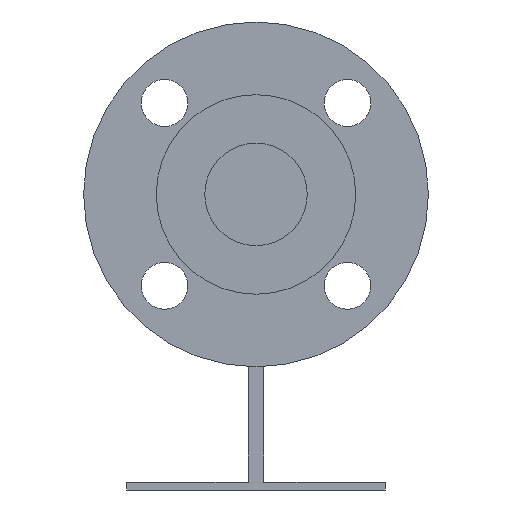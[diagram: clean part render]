
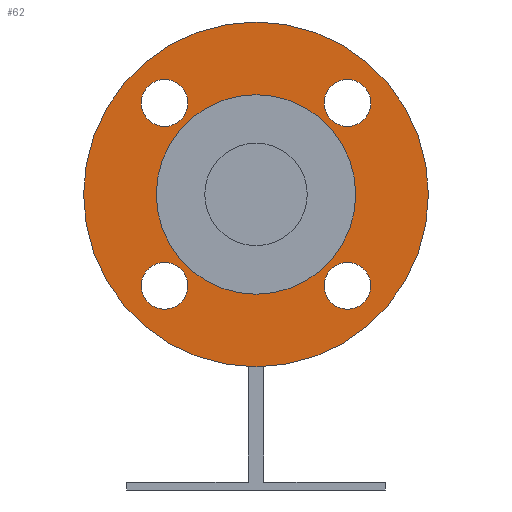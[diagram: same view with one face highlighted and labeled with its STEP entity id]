
A CAD part, left-side view. The second image highlights one B-rep face of the part: STEP entity #62.
In plain terms, the highlighted planar face has unit normal (-1, 0, 0).
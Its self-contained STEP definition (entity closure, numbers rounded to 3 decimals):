
#62=ADVANCED_FACE('',(#365,#366,#367,#368,#369,#370),#364,.T.);
#364=PLANE('',#1062);
#365=FACE_OUTER_BOUND('',#1063,.T.);
#366=FACE_BOUND('',#1064,.T.);
#367=FACE_BOUND('',#1065,.T.);
#368=FACE_BOUND('',#1066,.T.);
#369=FACE_BOUND('',#1067,.T.);
#370=FACE_BOUND('',#1068,.T.);
#1059=CARTESIAN_POINT('',(-337.,-131.244,-150.));
#1060=DIRECTION('',(-1.,0.,0.));
#1061=DIRECTION('',(0.,0.,1.));
#1062=AXIS2_PLACEMENT_3D('',#1059,#1060,#1061);
#1063=EDGE_LOOP('',(#1476,#1477));
#1064=EDGE_LOOP('',(#1478,#1479));
#1065=EDGE_LOOP('',(#1480,#1481));
#1066=EDGE_LOOP('',(#1482,#1483));
#1067=EDGE_LOOP('',(#1484,#1485));
#1068=EDGE_LOOP('',(#1486,#1487));
#1476=ORIENTED_EDGE('',*,*,#1843,.T.);
#1477=ORIENTED_EDGE('',*,*,#1844,.T.);
#1478=ORIENTED_EDGE('',*,*,#1845,.T.);
#1479=ORIENTED_EDGE('',*,*,#1846,.T.);
#1480=ORIENTED_EDGE('',*,*,#1847,.T.);
#1481=ORIENTED_EDGE('',*,*,#1848,.T.);
#1482=ORIENTED_EDGE('',*,*,#1849,.T.);
#1483=ORIENTED_EDGE('',*,*,#1850,.T.);
#1484=ORIENTED_EDGE('',*,*,#1851,.T.);
#1485=ORIENTED_EDGE('',*,*,#1852,.T.);
#1486=ORIENTED_EDGE('',*,*,#1853,.F.);
#1487=ORIENTED_EDGE('',*,*,#1854,.F.);
#1843=EDGE_CURVE('',#2706,#2707,#2708,.T.);
#1844=EDGE_CURVE('',#2707,#2706,#2714,.T.);
#1845=EDGE_CURVE('',#2720,#2721,#2722,.T.);
#1846=EDGE_CURVE('',#2721,#2720,#2728,.T.);
#1847=EDGE_CURVE('',#2734,#2735,#2736,.T.);
#1848=EDGE_CURVE('',#2735,#2734,#2742,.T.);
#1849=EDGE_CURVE('',#2748,#2749,#2750,.T.);
#1850=EDGE_CURVE('',#2749,#2748,#2756,.T.);
#1851=EDGE_CURVE('',#2762,#2763,#2764,.T.);
#1852=EDGE_CURVE('',#2763,#2762,#2770,.T.);
#1853=EDGE_CURVE('',#2776,#2777,#2778,.T.);
#1854=EDGE_CURVE('',#2777,#2776,#2784,.T.);
#2706=VERTEX_POINT('',#3739);
#2707=VERTEX_POINT('',#3740);
#2708=CIRCLE('',#3744,70.);
#2714=CIRCLE('',#3748,70.);
#2720=VERTEX_POINT('',#3749);
#2721=VERTEX_POINT('',#3750);
#2722=CIRCLE('',#3754,9.5);
#2728=CIRCLE('',#3758,9.5);
#2734=VERTEX_POINT('',#3759);
#2735=VERTEX_POINT('',#3760);
#2736=CIRCLE('',#3764,9.5);
#2742=CIRCLE('',#3768,9.5);
#2748=VERTEX_POINT('',#3769);
#2749=VERTEX_POINT('',#3770);
#2750=CIRCLE('',#3774,9.5);
#2756=CIRCLE('',#3778,9.5);
#2762=VERTEX_POINT('',#3779);
#2763=VERTEX_POINT('',#3780);
#2764=CIRCLE('',#3784,9.5);
#2770=CIRCLE('',#3788,9.5);
#2776=VERTEX_POINT('',#3789);
#2777=VERTEX_POINT('',#3790);
#2778=CIRCLE('',#3794,40.5);
#2784=CIRCLE('',#3798,40.5);
#3739=CARTESIAN_POINT('',(-337.,0.,70.));
#3740=CARTESIAN_POINT('',(-337.,0.,-70.));
#3741=CARTESIAN_POINT('',(-337.,0.,0.));
#3742=DIRECTION('',(-1.,0.,0.));
#3743=DIRECTION('',(0.,0.,1.));
#3744=AXIS2_PLACEMENT_3D('',#3741,#3742,#3743);
#3745=CARTESIAN_POINT('',(-337.,0.,0.));
#3746=DIRECTION('',(-1.,0.,0.));
#3747=DIRECTION('',(0.,0.,1.));
#3748=AXIS2_PLACEMENT_3D('',#3745,#3746,#3747);
#3749=CARTESIAN_POINT('',(-337.,-37.123,-27.623));
#3750=CARTESIAN_POINT('',(-337.,-37.123,-46.623));
#3751=CARTESIAN_POINT('',(-337.,-37.123,-37.123));
#3752=DIRECTION('',(1.,0.,0.));
#3753=DIRECTION('',(0.,0.,1.));
#3754=AXIS2_PLACEMENT_3D('',#3751,#3752,#3753);
#3755=CARTESIAN_POINT('',(-337.,-37.123,-37.123));
#3756=DIRECTION('',(1.,0.,0.));
#3757=DIRECTION('',(0.,0.,1.));
#3758=AXIS2_PLACEMENT_3D('',#3755,#3756,#3757);
#3759=CARTESIAN_POINT('',(-337.,37.123,-27.623));
#3760=CARTESIAN_POINT('',(-337.,37.123,-46.623));
#3761=CARTESIAN_POINT('',(-337.,37.123,-37.123));
#3762=DIRECTION('',(1.,0.,0.));
#3763=DIRECTION('',(0.,0.,1.));
#3764=AXIS2_PLACEMENT_3D('',#3761,#3762,#3763);
#3765=CARTESIAN_POINT('',(-337.,37.123,-37.123));
#3766=DIRECTION('',(1.,0.,0.));
#3767=DIRECTION('',(0.,0.,1.));
#3768=AXIS2_PLACEMENT_3D('',#3765,#3766,#3767);
#3769=CARTESIAN_POINT('',(-337.,37.123,46.623));
#3770=CARTESIAN_POINT('',(-337.,37.123,27.623));
#3771=CARTESIAN_POINT('',(-337.,37.123,37.123));
#3772=DIRECTION('',(1.,0.,0.));
#3773=DIRECTION('',(0.,0.,1.));
#3774=AXIS2_PLACEMENT_3D('',#3771,#3772,#3773);
#3775=CARTESIAN_POINT('',(-337.,37.123,37.123));
#3776=DIRECTION('',(1.,0.,0.));
#3777=DIRECTION('',(0.,0.,1.));
#3778=AXIS2_PLACEMENT_3D('',#3775,#3776,#3777);
#3779=CARTESIAN_POINT('',(-337.,-37.123,46.623));
#3780=CARTESIAN_POINT('',(-337.,-37.123,27.623));
#3781=CARTESIAN_POINT('',(-337.,-37.123,37.123));
#3782=DIRECTION('',(1.,0.,0.));
#3783=DIRECTION('',(0.,0.,1.));
#3784=AXIS2_PLACEMENT_3D('',#3781,#3782,#3783);
#3785=CARTESIAN_POINT('',(-337.,-37.123,37.123));
#3786=DIRECTION('',(1.,0.,0.));
#3787=DIRECTION('',(0.,0.,1.));
#3788=AXIS2_PLACEMENT_3D('',#3785,#3786,#3787);
#3789=CARTESIAN_POINT('',(-337.,0.,-40.5));
#3790=CARTESIAN_POINT('',(-337.,0.,40.5));
#3791=CARTESIAN_POINT('',(-337.,0.,0.));
#3792=DIRECTION('',(-1.,0.,0.));
#3793=DIRECTION('',(0.,0.,1.));
#3794=AXIS2_PLACEMENT_3D('',#3791,#3792,#3793);
#3795=CARTESIAN_POINT('',(-337.,0.,0.));
#3796=DIRECTION('',(-1.,0.,0.));
#3797=DIRECTION('',(0.,0.,1.));
#3798=AXIS2_PLACEMENT_3D('',#3795,#3796,#3797);
